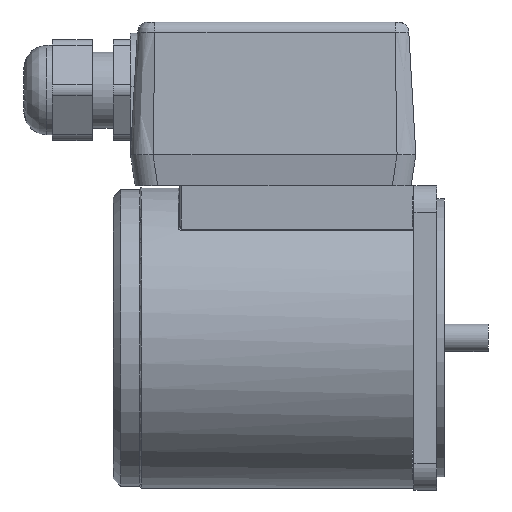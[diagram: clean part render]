
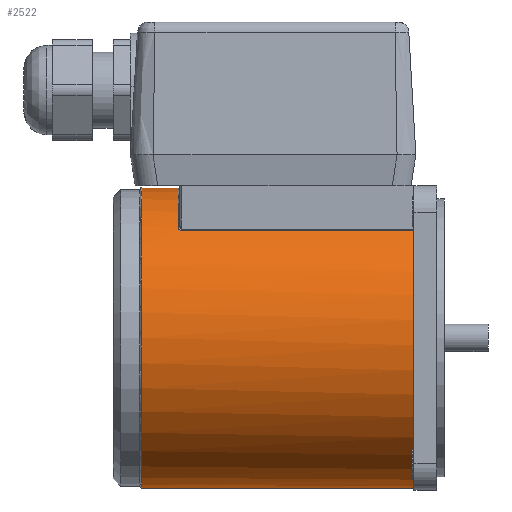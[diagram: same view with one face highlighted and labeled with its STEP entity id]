
A CAD part, left-side view. The second image highlights one B-rep face of the part: STEP entity #2522.
In plain terms, the highlighted cylindrical face has radius 39.5 mm (diameter 79 mm), a full revolution.
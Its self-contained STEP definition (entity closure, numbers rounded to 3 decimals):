
#2444=CARTESIAN_POINT('',(-39.5,0.,-71.5));
#2445=VERTEX_POINT('',#2444);
#2446=CARTESIAN_POINT('',(0.0,0.0,-71.5));
#2447=DIRECTION('',(0.0,0.0,-1.0));
#2448=DIRECTION('',(1.0,0.0,0.0));
#2449=AXIS2_PLACEMENT_3D('',#2446,#2447,#2448);
#2450=CIRCLE('',#2449,39.5);
#2451=EDGE_CURVE('',#2445,#2445,#2450,.T.);
#2456=CARTESIAN_POINT('',(0.0,0.0,0.0));
#2457=DIRECTION('',(0.0,0.0,-1.0));
#2458=DIRECTION('',(1.0,0.0,0.0));
#2459=AXIS2_PLACEMENT_3D('',#2456,#2457,#2458);
#2460=CYLINDRICAL_SURFACE('',#2459,39.5);
#2461=CARTESIAN_POINT('',(-27.65,28.209,-61.));
#2462=VERTEX_POINT('',#2461);
#2463=CARTESIAN_POINT('',(-27.65,28.209,0.0));
#2464=VERTEX_POINT('',#2463);
#2465=CARTESIAN_POINT('',(-27.65,28.209,-61.));
#2466=DIRECTION('',(0.0,0.0,1.0));
#2467=VECTOR('',#2466,61.);
#2468=LINE('',#2465,#2467);
#2469=EDGE_CURVE('',#2462,#2464,#2468,.T.);
#2470=ORIENTED_EDGE('',*,*,#2469,.F.);
#2471=CARTESIAN_POINT('',(-26.663,29.144,-62.0));
#2472=VERTEX_POINT('',#2471);
#2473=CARTESIAN_POINT('',(-26.663,29.144,-62.));
#2474=CARTESIAN_POINT('',(-26.922,28.906,-62.));
#2475=CARTESIAN_POINT('',(-27.282,28.567,-61.863));
#2476=CARTESIAN_POINT('',(-27.594,28.264,-61.4));
#2477=CARTESIAN_POINT('',(-27.65,28.209,-61.134));
#2478=CARTESIAN_POINT('',(-27.65,28.209,-61.));
#2479=B_SPLINE_CURVE_WITH_KNOTS('',3,(#2473,#2474,#2475,#2476,#2477,#2478),.UNSPECIFIED.,.F.,.U.,(4,1,1,4),(-0.187,-0.08,-0.04,0.),.UNSPECIFIED.);
#2480=EDGE_CURVE('',#2472,#2462,#2479,.T.);
#2481=ORIENTED_EDGE('',*,*,#2480,.F.);
#2482=CARTESIAN_POINT('',(26.663,29.144,-62.0));
#2483=VERTEX_POINT('',#2482);
#2484=CARTESIAN_POINT('',(0.0,0.0,-62.0));
#2485=DIRECTION('',(0.0,0.0,1.0));
#2486=DIRECTION('',(0.0,1.0,0.0));
#2487=AXIS2_PLACEMENT_3D('',#2484,#2485,#2486);
#2488=CIRCLE('',#2487,39.5);
#2489=EDGE_CURVE('',#2483,#2472,#2488,.T.);
#2490=ORIENTED_EDGE('',*,*,#2489,.F.);
#2491=CARTESIAN_POINT('',(27.65,28.209,-61.));
#2492=VERTEX_POINT('',#2491);
#2493=CARTESIAN_POINT('',(27.65,28.209,-61.));
#2494=CARTESIAN_POINT('',(27.65,28.209,-61.178));
#2495=CARTESIAN_POINT('',(27.547,28.309,-61.524));
#2496=CARTESIAN_POINT('',(27.181,28.663,-61.904));
#2497=CARTESIAN_POINT('',(26.857,28.966,-62.0));
#2498=CARTESIAN_POINT('',(26.663,29.144,-62.0));
#2499=B_SPLINE_CURVE_WITH_KNOTS('',3,(#2493,#2494,#2495,#2496,#2497,#2498),.UNSPECIFIED.,.F.,.U.,(4,1,1,4),(-0.187,-0.133,-0.08,0.),.UNSPECIFIED.);
#2500=EDGE_CURVE('',#2492,#2483,#2499,.T.);
#2501=ORIENTED_EDGE('',*,*,#2500,.F.);
#2502=CARTESIAN_POINT('',(27.65,28.209,0.0));
#2503=VERTEX_POINT('',#2502);
#2504=CARTESIAN_POINT('',(27.65,28.209,0.0));
#2505=DIRECTION('',(0.0,0.0,-1.0));
#2506=VECTOR('',#2505,61.);
#2507=LINE('',#2504,#2506);
#2508=EDGE_CURVE('',#2503,#2492,#2507,.T.);
#2509=ORIENTED_EDGE('',*,*,#2508,.F.);
#2510=CARTESIAN_POINT('',(0.0,0.0,0.0));
#2511=DIRECTION('',(0.0,0.0,1.0));
#2512=DIRECTION('',(1.0,0.0,0.0));
#2513=AXIS2_PLACEMENT_3D('',#2510,#2511,#2512);
#2514=CIRCLE('',#2513,39.5);
#2515=EDGE_CURVE('',#2464,#2503,#2514,.T.);
#2516=ORIENTED_EDGE('',*,*,#2515,.F.);
#2517=EDGE_LOOP('',(#2470,#2481,#2490,#2501,#2509,#2516));
#2518=FACE_OUTER_BOUND('',#2517,.T.);
#2519=ORIENTED_EDGE('',*,*,#2451,.F.);
#2520=EDGE_LOOP('',(#2519));
#2521=FACE_BOUND('',#2520,.T.);
#2522=ADVANCED_FACE('',(#2518,#2521),#2460,.T.);
